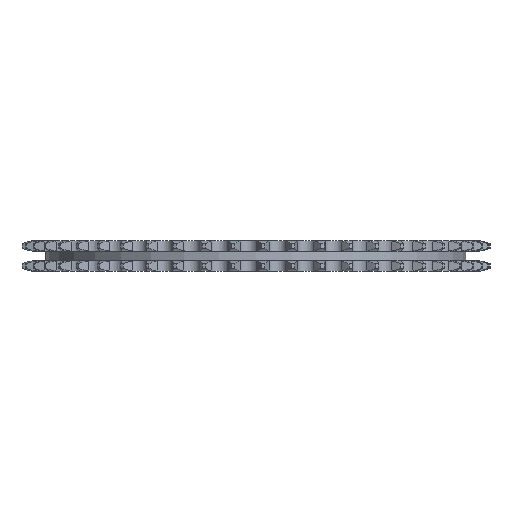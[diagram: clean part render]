
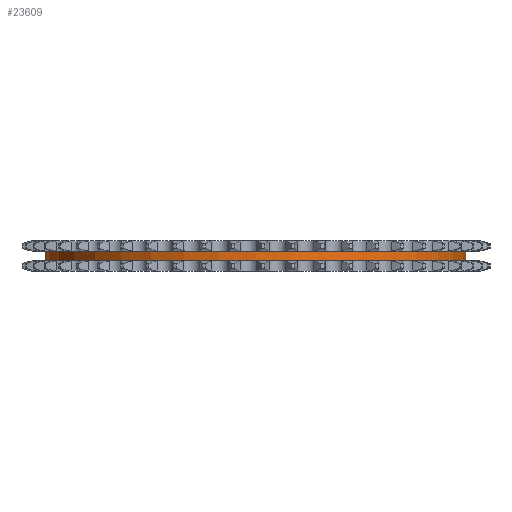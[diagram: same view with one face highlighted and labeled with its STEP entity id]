
A CAD part, left-side view. The second image highlights one B-rep face of the part: STEP entity #23609.
In plain terms, the highlighted cylindrical face has radius 57.431 mm (diameter 114.863 mm), a partial arc.
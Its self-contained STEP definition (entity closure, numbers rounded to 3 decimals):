
#4976=DIRECTION('',(0.,0.,-1.));
#4977=VECTOR('',#4976,2.7);
#4978=CARTESIAN_POINT('',(0.,57.432,1.35));
#4979=LINE('',#4978,#4977);
#4983=CARTESIAN_POINT('',(0.,0.,1.35));
#4984=DIRECTION('',(0.,0.,1.));
#4985=DIRECTION('',(0.,1.,0.));
#4986=AXIS2_PLACEMENT_3D('',#4983,#4984,#4985);
#4991=DIRECTION('',(0.,0.,-1.));
#4992=VECTOR('',#4991,2.7);
#4993=CARTESIAN_POINT('',(0.,-57.432,1.35));
#4994=LINE('',#4993,#4992);
#4998=CARTESIAN_POINT('',(0.,0.,-1.35));
#4999=DIRECTION('',(0.,0.,1.));
#5000=DIRECTION('',(0.,1.,0.));
#5001=AXIS2_PLACEMENT_3D('',#4998,#4999,#5000);
#16664=CARTESIAN_POINT('',(0.,57.432,1.35));
#16665=CARTESIAN_POINT('',(0.,57.432,-1.35));
#16666=VERTEX_POINT('',#16664);
#16667=VERTEX_POINT('',#16665);
#16668=CARTESIAN_POINT('',(0.,-57.432,1.35));
#16669=CARTESIAN_POINT('',(0.,-57.432,-1.35));
#16670=VERTEX_POINT('',#16668);
#16671=VERTEX_POINT('',#16669);
#23597=CARTESIAN_POINT('',(0.,0.,1.485));
#23598=DIRECTION('',(0.,0.,-1.));
#23599=DIRECTION('',(0.,-1.,0.));
#23600=AXIS2_PLACEMENT_3D('',#23597,#23598,#23599);
#23601=CYLINDRICAL_SURFACE('',#23600,57.432);
#23602=ORIENTED_EDGE('',*,*,#23587,.F.);
#23603=ORIENTED_EDGE('',*,*,#23577,.T.);
#23604=ORIENTED_EDGE('',*,*,#23591,.T.);
#23606=ORIENTED_EDGE('',*,*,#23605,.F.);
#23607=EDGE_LOOP('',(#23602,#23603,#23604,#23606));
#23608=FACE_OUTER_BOUND('',#23607,.F.);
#23609=ADVANCED_FACE('',(#23608),#23601,.T.);
#4987=CIRCLE('',#4986,57.432);
#5002=CIRCLE('',#5001,57.432);
#23577=EDGE_CURVE('',#16666,#16670,#4987,.T.);
#23587=EDGE_CURVE('',#16666,#16667,#4979,.T.);
#23591=EDGE_CURVE('',#16670,#16671,#4994,.T.);
#23605=EDGE_CURVE('',#16667,#16671,#5002,.T.);
